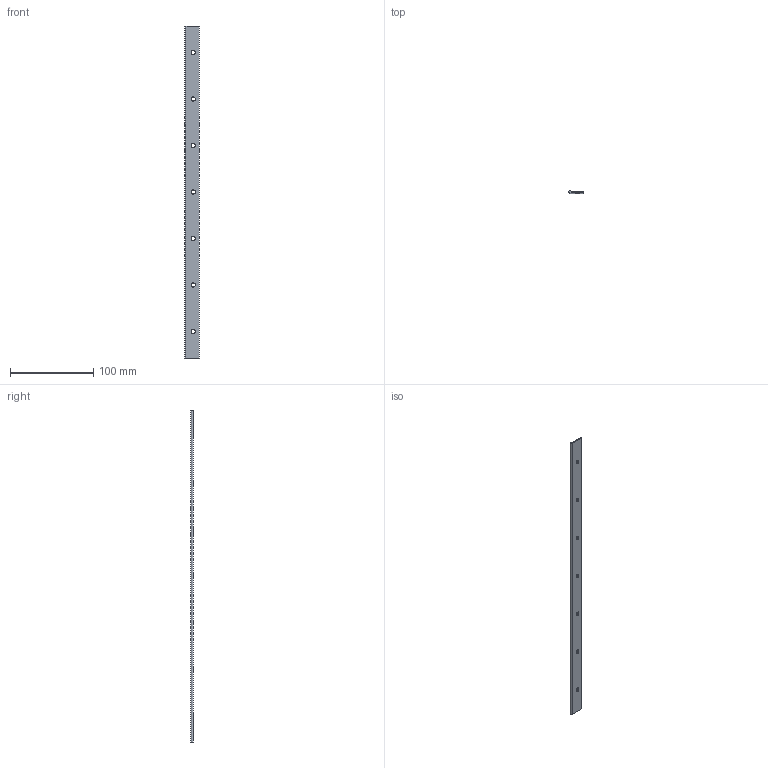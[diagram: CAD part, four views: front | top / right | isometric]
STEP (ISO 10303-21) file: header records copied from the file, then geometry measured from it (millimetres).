
FILE_DESCRIPTION (( 'STEP AP203' ), '1' );
FILE_NAME ('Charnière_600.STEP', '2026-06-24T07:29:50', ( '' ), ( '' ), 'SwSTEP 2.0', 'SolidWorks 2024', '' );
FILE_SCHEMA (( 'CONFIG_CONTROL_DESIGN' ));
Length unit declared in the file: millimetre
Products named in the file (1): Charnière_600_400
Bounding box: 17.5 x 3 x 400 mm (x, y, z)
Volume: 11514.4 mm3; surface area: 15576.1 mm2
Topology: 1 solids, 1 shells, 13 faces, 33 edges, 22 vertices
Faces by surface type: cylinder 8, plane 5
Full cylindrical faces by diameter (mm): 5 x7
Entity records: 471 total; most frequent: DIRECTION 70, CARTESIAN_POINT 62, ORIENTED_EDGE 52, EDGE_LOOP 34, AXIS2_PLACEMENT_3D 30, EDGE_CURVE 26, VERTEX_POINT 22, FACE_OUTER_BOUND 20
